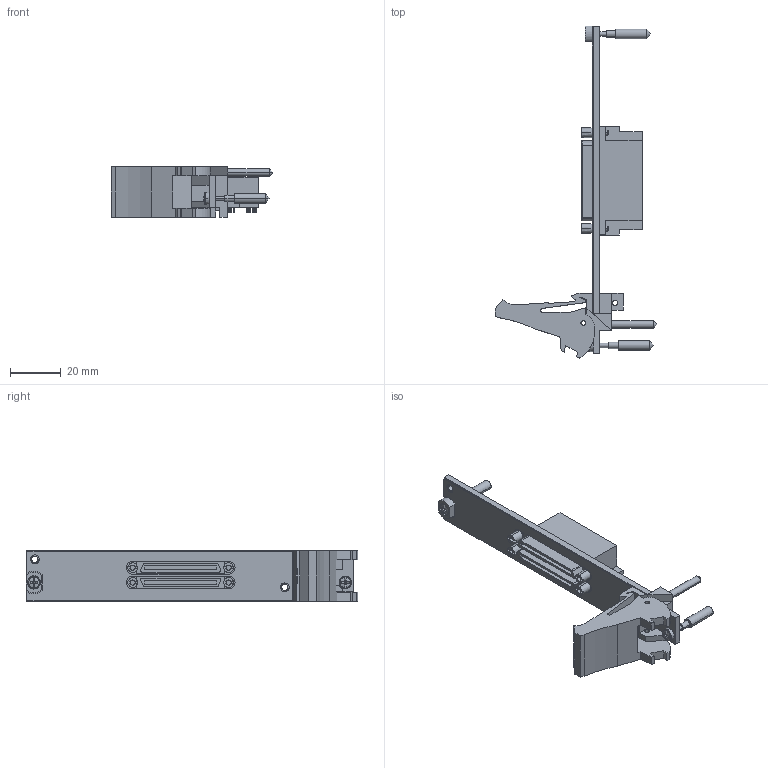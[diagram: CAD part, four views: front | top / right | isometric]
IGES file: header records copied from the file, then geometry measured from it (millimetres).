
Start section:  PTC IGES file: cu_pxie-6358.igs
Global section: file name: cu_pxie-6358.igs; native system: Pro/ENGINEER by Parametric Technology Corporation; preprocessor: 2010230; author: jjorden; organization: Unknown; date: 20110228.143910; units: inch
Bounding box: 63.53 x 130.5 x 20.02 mm (x, y, z)
Surface area: 16505.9 mm2 (no closed solid volume)
Topology: 0 solids, 0 shells, 515 faces, 2608 edges, 2598 vertices
Faces by surface type: bspline 312, revolution 203
